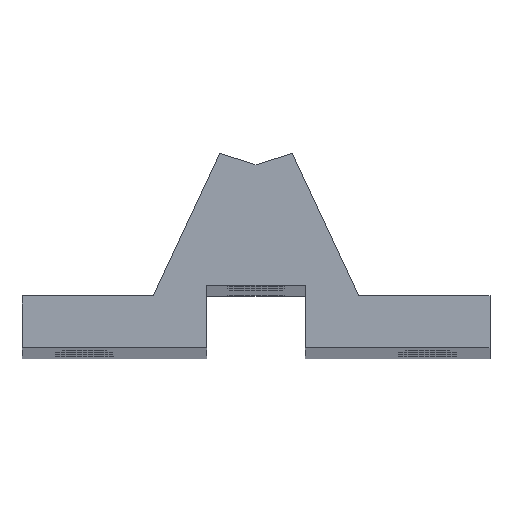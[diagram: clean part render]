
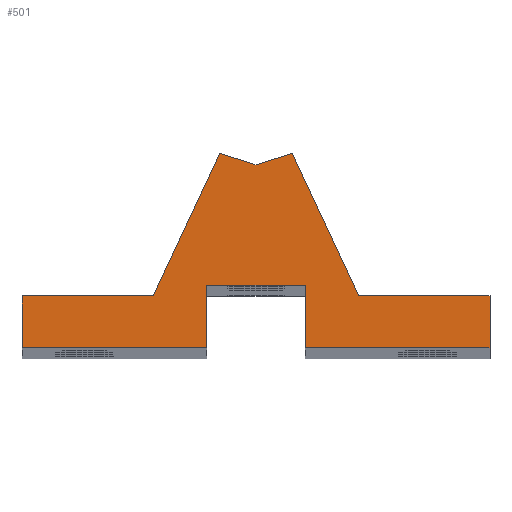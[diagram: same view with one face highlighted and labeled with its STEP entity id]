
A CAD part, top view. The second image highlights one B-rep face of the part: STEP entity #501.
In plain terms, the highlighted planar face has unit normal (0, 0, 1).
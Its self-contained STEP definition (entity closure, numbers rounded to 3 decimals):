
#36 = VERTEX_POINT ( 'NONE', #71 ) ;
#71 = CARTESIAN_POINT ( 'NONE',  ( 3.484, 16.21, 299.75 ) ) ;
#72 = AXIS2_PLACEMENT_3D ( 'NONE', #1060, #898, #1496 ) ;
#77 = LINE ( 'NONE', #555, #1434 ) ;
#106 = LINE ( 'NONE', #879, #758 ) ;
#115 = VECTOR ( 'NONE', #1692, 1000. ) ;
#137 = CARTESIAN_POINT ( 'NONE',  ( -9.877, 2.5, 299.75 ) ) ;
#142 = EDGE_CURVE ( 'NONE', #36, #1020, #106, .T. ) ;
#170 = VECTOR ( 'NONE', #1956, 1000. ) ;
#173 = VECTOR ( 'NONE', #1063, 1000. ) ;
#175 = VERTEX_POINT ( 'NONE', #867 ) ;
#201 = VERTEX_POINT ( 'NONE', #1810 ) ;
#216 = DIRECTION ( 'NONE',  ( 1., 0., 0. ) ) ;
#228 = LINE ( 'NONE', #1588, #906 ) ;
#280 = CARTESIAN_POINT ( 'NONE',  ( -4.75, 3.5, 299.75 ) ) ;
#291 = CARTESIAN_POINT ( 'NONE',  ( -22.5, 2.5, 299.75 ) ) ;
#304 = LINE ( 'NONE', #1487, #170 ) ;
#316 = ORIENTED_EDGE ( 'NONE', *, *, #1201, .T. ) ;
#321 = EDGE_CURVE ( 'NONE', #525, #36, #462, .T. ) ;
#402 = LINE ( 'NONE', #1157, #1676 ) ;
#413 = DIRECTION ( 'NONE',  ( -1., 0., 0. ) ) ;
#455 = LINE ( 'NONE', #774, #877 ) ;
#462 = LINE ( 'NONE', #1070, #115 ) ;
#483 = EDGE_CURVE ( 'NONE', #1099, #201, #455, .T. ) ;
#490 = VERTEX_POINT ( 'NONE', #1182 ) ;
#498 = EDGE_CURVE ( 'NONE', #1077, #1167, #304, .T. ) ;
#501 = ADVANCED_FACE ( 'NONE', ( #579 ), #1191, .T. ) ;
#505 = ORIENTED_EDGE ( 'NONE', *, *, #818, .T. ) ;
#525 = VERTEX_POINT ( 'NONE', #1678 ) ;
#538 = CARTESIAN_POINT ( 'NONE',  ( 4.75, -2.5, 299.75 ) ) ;
#550 = ORIENTED_EDGE ( 'NONE', *, *, #856, .T. ) ;
#555 = CARTESIAN_POINT ( 'NONE',  ( 0., 15.112, 299.75 ) ) ;
#556 = EDGE_CURVE ( 'NONE', #1767, #1971, #228, .T. ) ;
#579 = FACE_OUTER_BOUND ( 'NONE', #1872, .T. ) ;
#582 = ORIENTED_EDGE ( 'NONE', *, *, #616, .T. ) ;
#616 = EDGE_CURVE ( 'NONE', #1077, #1852, #1741, .T. ) ;
#630 = EDGE_CURVE ( 'NONE', #1167, #1455, #693, .T. ) ;
#645 = DIRECTION ( 'NONE',  ( 1., 0., 0. ) ) ;
#673 = CARTESIAN_POINT ( 'NONE',  ( 22.5, -2.5, 299.75 ) ) ;
#677 = VECTOR ( 'NONE', #645, 1000. ) ;
#693 = LINE ( 'NONE', #1229, #1086 ) ;
#728 = CARTESIAN_POINT ( 'NONE',  ( 0., 15.112, 299.75 ) ) ;
#729 = CARTESIAN_POINT ( 'NONE',  ( -4.75, 3.5, 299.75 ) ) ;
#747 = VECTOR ( 'NONE', #216, 1000. ) ;
#758 = VECTOR ( 'NONE', #1669, 1000. ) ;
#774 = CARTESIAN_POINT ( 'NONE',  ( -22.5, 2.5, 299.75 ) ) ;
#797 = DIRECTION ( 'NONE',  ( -1., 0., 0. ) ) ;
#800 = ORIENTED_EDGE ( 'NONE', *, *, #142, .T. ) ;
#818 = EDGE_CURVE ( 'NONE', #490, #525, #402, .T. ) ;
#833 = CARTESIAN_POINT ( 'NONE',  ( -22.5, -2.5, 299.75 ) ) ;
#856 = EDGE_CURVE ( 'NONE', #1020, #1767, #77, .T. ) ;
#867 = CARTESIAN_POINT ( 'NONE',  ( -4.75, -2.5, 299.75 ) ) ;
#877 = VECTOR ( 'NONE', #1511, 1000. ) ;
#879 = CARTESIAN_POINT ( 'NONE',  ( 3.712, 16.282, 299.75 ) ) ;
#897 = EDGE_CURVE ( 'NONE', #1971, #1099, #946, .T. ) ;
#898 = DIRECTION ( 'NONE',  ( 0., 0., 1. ) ) ;
#903 = CARTESIAN_POINT ( 'NONE',  ( 4.75, 3.5, 299.75 ) ) ;
#906 = VECTOR ( 'NONE', #1763, 1000. ) ;
#946 = LINE ( 'NONE', #1555, #953 ) ;
#953 = VECTOR ( 'NONE', #797, 1000. ) ;
#963 = DIRECTION ( 'NONE',  ( -1., 0., 0. ) ) ;
#977 = ORIENTED_EDGE ( 'NONE', *, *, #630, .F. ) ;
#1020 = VERTEX_POINT ( 'NONE', #728 ) ;
#1026 = ORIENTED_EDGE ( 'NONE', *, *, #556, .T. ) ;
#1031 = VECTOR ( 'NONE', #1422, 1000. ) ;
#1060 = CARTESIAN_POINT ( 'NONE',  ( 0., 0., 299.75 ) ) ;
#1063 = DIRECTION ( 'NONE',  ( 0., -1., 0. ) ) ;
#1068 = ORIENTED_EDGE ( 'NONE', *, *, #483, .T. ) ;
#1070 = CARTESIAN_POINT ( 'NONE',  ( 3.45, 16.282, 299.75 ) ) ;
#1077 = VERTEX_POINT ( 'NONE', #538 ) ;
#1086 = VECTOR ( 'NONE', #963, 1000. ) ;
#1099 = VERTEX_POINT ( 'NONE', #291 ) ;
#1157 = CARTESIAN_POINT ( 'NONE',  ( -22.5, 2.5, 299.75 ) ) ;
#1163 = ORIENTED_EDGE ( 'NONE', *, *, #1218, .T. ) ;
#1167 = VERTEX_POINT ( 'NONE', #903 ) ;
#1182 = CARTESIAN_POINT ( 'NONE',  ( 22.5, 2.5, 299.75 ) ) ;
#1191 = PLANE ( 'NONE',  #72 ) ;
#1201 = EDGE_CURVE ( 'NONE', #1852, #490, #1908, .T. ) ;
#1207 = LINE ( 'NONE', #280, #173 ) ;
#1218 = EDGE_CURVE ( 'NONE', #201, #175, #1920, .T. ) ;
#1229 = CARTESIAN_POINT ( 'NONE',  ( -4.75, 3.5, 299.75 ) ) ;
#1241 = CARTESIAN_POINT ( 'NONE',  ( -3.484, 16.21, 299.75 ) ) ;
#1280 = ORIENTED_EDGE ( 'NONE', *, *, #1626, .F. ) ;
#1300 = ORIENTED_EDGE ( 'NONE', *, *, #498, .F. ) ;
#1422 = DIRECTION ( 'NONE',  ( 0., 1., 0. ) ) ;
#1434 = VECTOR ( 'NONE', #1911, 1000. ) ;
#1455 = VERTEX_POINT ( 'NONE', #729 ) ;
#1487 = CARTESIAN_POINT ( 'NONE',  ( 4.75, 3.5, 299.75 ) ) ;
#1496 = DIRECTION ( 'NONE',  ( 1., 0., 0. ) ) ;
#1511 = DIRECTION ( 'NONE',  ( 0., -1., 0. ) ) ;
#1533 = ORIENTED_EDGE ( 'NONE', *, *, #321, .T. ) ;
#1555 = CARTESIAN_POINT ( 'NONE',  ( -22.5, 2.5, 299.75 ) ) ;
#1582 = CARTESIAN_POINT ( 'NONE',  ( 22.5, 2.5, 299.75 ) ) ;
#1588 = CARTESIAN_POINT ( 'NONE',  ( -9.877, 2.5, 299.75 ) ) ;
#1610 = CARTESIAN_POINT ( 'NONE',  ( -22.5, -2.5, 299.75 ) ) ;
#1626 = EDGE_CURVE ( 'NONE', #1455, #175, #1207, .T. ) ;
#1669 = DIRECTION ( 'NONE',  ( -0.954, -0.301, 0. ) ) ;
#1676 = VECTOR ( 'NONE', #413, 1000. ) ;
#1678 = CARTESIAN_POINT ( 'NONE',  ( 9.877, 2.5, 299.75 ) ) ;
#1692 = DIRECTION ( 'NONE',  ( -0.423, 0.906, 0. ) ) ;
#1741 = LINE ( 'NONE', #1610, #747 ) ;
#1763 = DIRECTION ( 'NONE',  ( -0.423, -0.906, 0. ) ) ;
#1767 = VERTEX_POINT ( 'NONE', #1241 ) ;
#1800 = ORIENTED_EDGE ( 'NONE', *, *, #897, .T. ) ;
#1810 = CARTESIAN_POINT ( 'NONE',  ( -22.5, -2.5, 299.75 ) ) ;
#1852 = VERTEX_POINT ( 'NONE', #673 ) ;
#1872 = EDGE_LOOP ( 'NONE', ( #1300, #582, #316, #505, #1533, #800, #550, #1026, #1800, #1068, #1163, #1280, #977 ) ) ;
#1908 = LINE ( 'NONE', #1582, #1031 ) ;
#1911 = DIRECTION ( 'NONE',  ( -0.954, 0.301, 0. ) ) ;
#1920 = LINE ( 'NONE', #833, #677 ) ;
#1956 = DIRECTION ( 'NONE',  ( 0., 1., 0. ) ) ;
#1971 = VERTEX_POINT ( 'NONE', #137 ) ;
